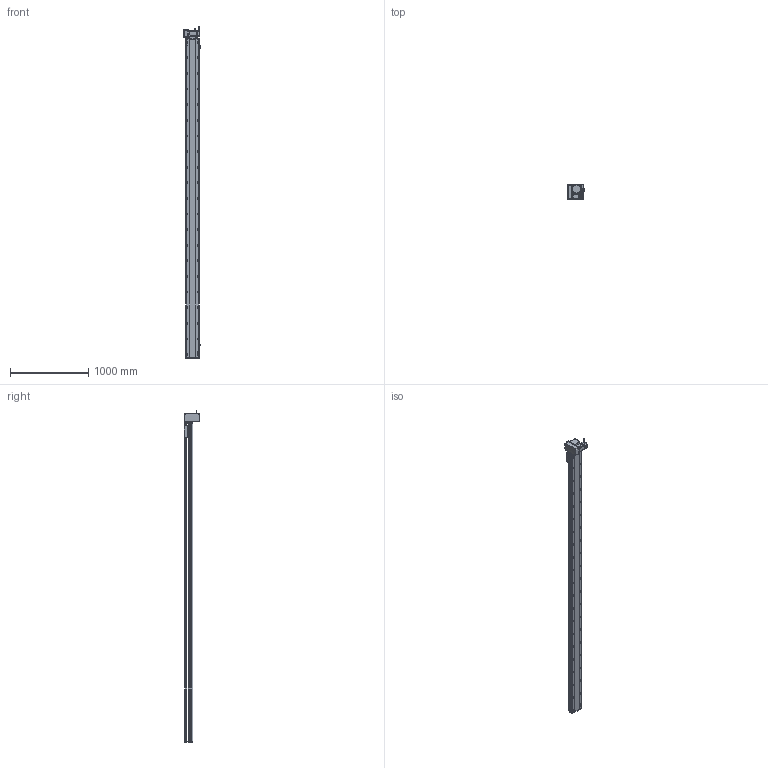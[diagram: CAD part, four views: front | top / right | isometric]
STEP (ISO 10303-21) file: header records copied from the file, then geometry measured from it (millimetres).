
FILE_DESCRIPTION (( 'STEP AP214' ), '1' );
FILE_NAME ('RTB17S-XX-3800-LM-M75-C4.STEP', '2025-12-12T00:54:23', ( '' ), ( '' ), 'SwSTEP 2.0', 'SolidWorks 2018', '' );
FILE_SCHEMA (( 'AUTOMOTIVE_DESIGN' ));
Length unit declared in the file: millimetre
Products named in the file (15): RTB22S-GY-005P^RTB17S-LM-々湍釱蚾饜-750W_RTB17S-XX-XX-LM-M75-C4; EE672^RTB17S-XX-XX-LM-M75-C4; RTB22S-GY-017P^RTB17S-LM-々湍釱蚾饜-750W_RTB17S-XX-XX-LM-M75-C4; RTB17S-L-001-耜醱啣^RTB17S-XX-XX-LM-M75-C4; RTB22S-GY-008-M75--萇儂啣^RTB17S-LM-々湍釱蚾饜-750W_RTB17S-XX-XX-LM-M75-C4; 750W萇儂^RTB17S-XX-XX-LM-M75-C4; RTB17S-L-007奻裔^RTB17S-XX-XX-LM-M75-C4; RTB17S-L-014-T20-P75--々湍釱^RTB17S-LM-々湍釱蚾饜-750W_RTB17S-XX-XX-LM-M75-C4; RTB17S-XX-3800-LM-M75-C4; RTB17S-L-004-賑釱^RTB17S-賑釱_RTB17S-XX-XX-LM-M75-C4; RTH13-BL-012覜茼え俋离^RTB17S-賑釱_RTB17S-XX-XX-LM-M75-C4; RTB22S-GY-018P^RTB17S-LM-々湍釱蚾饜-750W_RTB17S-XX-XX-LM-M75-C4; RTB17-R-011菁釱^RTB17S-XX-XX-LM-M75-C4; RTB17S-賑釱^RTB17S-XX-XX-LM-M75-C4; RTB17S-LM-々湍釱蚾饜-750W^RTB17S-XX-XX-LM-M75-C4
Assembly tree (17 placements, depth 3):
  RTB17S-XX-3800-LM-M75-C4
    RTB17-R-011菁釱^RTB17S-XX-XX-LM-M75-C4
    EE672^RTB17S-XX-XX-LM-M75-C4  x3
    RTB17S-L-001-耜醱啣^RTB17S-XX-XX-LM-M75-C4
    RTB17S-賑釱^RTB17S-XX-XX-LM-M75-C4
      RTB17S-L-004-賑釱^RTB17S-賑釱_RTB17S-XX-XX-LM-M75-C4
      RTH13-BL-012覜茼え俋离^RTB17S-賑釱_RTB17S-XX-XX-LM-M75-C4
    RTB17S-L-007奻裔^RTB17S-XX-XX-LM-M75-C4
    750W萇儂^RTB17S-XX-XX-LM-M75-C4
    RTB17S-LM-々湍釱蚾饜-750W^RTB17S-XX-XX-LM-M75-C4
      RTB17S-L-014-T20-P75--々湍釱^RTB17S-LM-々湍釱蚾饜-750W_RTB17S-XX-XX-LM-M75-C4
      RTB22S-GY-005P^RTB17S-LM-々湍釱蚾饜-750W_RTB17S-XX-XX-LM-M75-C4
      RTB22S-GY-017P^RTB17S-LM-々湍釱蚾饜-750W_RTB17S-XX-XX-LM-M75-C4  x2
      RTB22S-GY-008-M75--萇儂啣^RTB17S-LM-々湍釱蚾饜-750W_RTB17S-XX-XX-LM-M75-C4
      RTB22S-GY-018P^RTB17S-LM-々湍釱蚾饜-750W_RTB17S-XX-XX-LM-M75-C4
Bounding box: 210.4 x 200 x 4252.2 mm (x, y, z)
Volume: 29707005 mm3; surface area: 5509341.5 mm2
Topology: 17 solids, 17 shells, 2313 faces, 6538 edges, 4238 vertices
Faces by surface type: plane 998, cylinder 899, bspline 294, cone 110, sphere 8, torus 4
Entity records: 68854 total; most frequent: CARTESIAN_POINT 20602, ORIENTED_EDGE 9920, DIRECTION 9122, EDGE_CURVE 4960, AXIS2_PLACEMENT_3D 3258, VERTEX_POINT 3242, LINE 2606, VECTOR 2606
